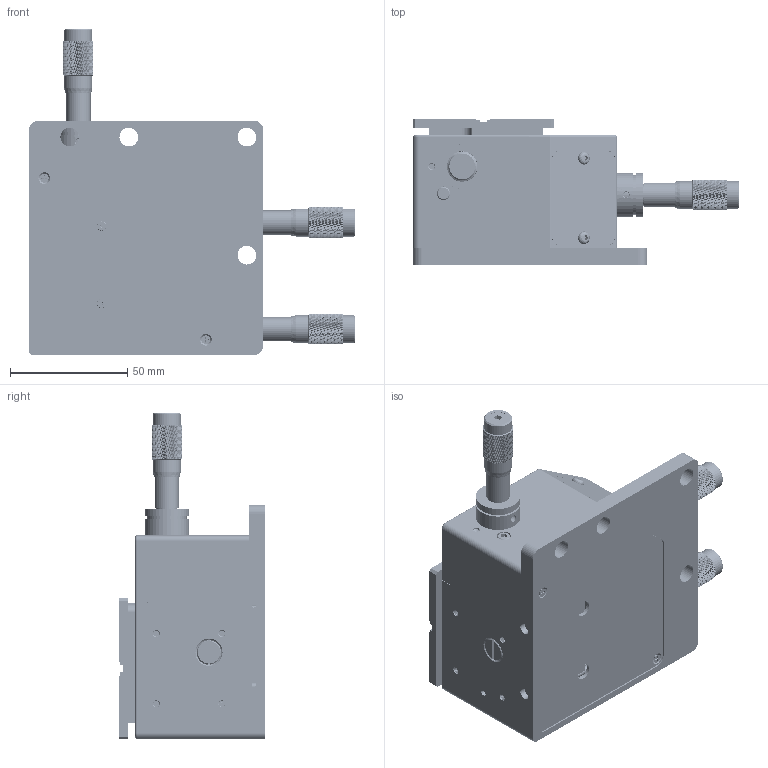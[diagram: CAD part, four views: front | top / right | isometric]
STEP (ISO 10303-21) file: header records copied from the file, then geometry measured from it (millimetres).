
FILE_DESCRIPTION((''),'2;1');
FILE_NAME('NANO_X3-M_ASM','2020-10-26T',('Administrator'),(''),'CREO PARAMETRIC BY PTC INC, 2015290','CREO PARAMETRIC BY PTC INC, 2015290','');
FILE_SCHEMA(('CONFIG_CONTROL_DESIGN'));
Products named in the file (63): NANO_X3-M_A1; NANO_X3-M_A2; AXLE_0_8X30; NANO_X3-M_A3; NANO_X3-M_FLEX_ASSY_65_ASM; NANO_X3-M_A4; AXLE_0_8_54; M4_0_8; NANO_X3-M_FLEX_ASSY_55_ASM; NANO_X3-M_FLEX_ASSY_55_2_ASM; NANO_X3-M_FLEX_ASSY_65_2_ASM; SPACER_4X5; M2_5X5_HM; M2_5X6_HM; NANO_X3-M_B1; NANO_X3-M_B2; NANO_X3-M_B3; NANO_X3-M_A5; NANO_X3-M_MOVING_Z_ASM; NANO_X3-M_A6; NANO_X3-M_B4; NANO_X3-M_B5; M3X5_PM; NANO_X3-M_A8; SPRING_10X16; NANO_X3-M_A7; NANO_X3-M_X_AXIS_ASM; M3X6_HM_2; SPRING_10X16_2; NANO_X3-M_A9; NANO_X3-M_Y_AXIS_ASM; NANO_X3-M_A11; NANO_X3-M_A10; NANO_X3-M_A10_ASM; NANO_X3-M_Z_LEVER_ASM; NANO_X3-M_A12; M4X8_HS; SPRING4_5X30; NANO_X3-M_A13; SPACER_6X1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
Assembly tree (134 placements, depth 4):
  NANO_X3-M_ASM
    NANO_X3-M_A1
    NANO_X3-M_FLEX_ASSY_65_ASM  x3
      NANO_X3-M_A2
      AXLE_0_8X30
      NANO_X3-M_A3
    NANO_X3-M_FLEX_ASSY_55_ASM
      NANO_X3-M_A4
      NANO_X3-M_A2
      AXLE_0_8_54
      M4_0_8
    NANO_X3-M_FLEX_ASSY_55_2_ASM
      NANO_X3-M_A4
      NANO_X3-M_A2  x2
      AXLE_0_8_54
    NANO_X3-M_FLEX_ASSY_65_2_ASM
      NANO_X3-M_A2
      AXLE_0_8X30  x2
      NANO_X3-M_A3
      M4_0_8
    NANO_X3-M_MOVING_Z_ASM
      SPACER_4X5
      M2_5X5_HM  x2
      M2_5X6_HM  x3
      NANO_X3-M_B1
      NANO_X3-M_B2  x2
      NANO_X3-M_B3
      NANO_X3-M_A5
    NANO_X3-M_X_AXIS_ASM
      NANO_X3-M_A6
      NANO_X3-M_B4  x2
      NANO_X3-M_B5
      M3X5_PM  x6
      NANO_X3-M_A8
      SPRING_10X16
      NANO_X3-M_A7
    NANO_X3-M_Y_AXIS_ASM
      M3X6_HM_2  x3
      SPRING_10X16_2
      NANO_X3-M_A8
      NANO_X3-M_B4
      NANO_X3-M_B5
      NANO_X3-M_A9
    NANO_X3-M_Z_LEVER_ASM
      NANO_X3-M_A11
      NANO_X3-M_B1
      NANO_X3-M_B3
      NANO_X3-M_A10_ASM
        SPACER_4X5
        NANO_X3-M_A10
    NANO_X3-M_A12
    M4X8_HS
    SPRING4_5X30
    NANO_X3-M_A13
    SPACER_6X1  x3
    NANO_X3-M_A14
    NANO_X3-M_A15
    M3X5_HM_3  x2
    SPRING_10X16_3
    SPRING_PLUG
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Bounding box: 139.15 x 62.5 x 139.15 mm (x, y, z)
Volume: 229290.7 mm3; surface area: 164564.7 mm2
Topology: 142 solids, 142 shells, 12510 faces, 34809 edges, 22655 vertices
Faces by surface type: bspline 5400, cylinder 5235, plane 1212, cone 578, torus 71, sphere 14
Entity records: 480734 total; most frequent: CARTESIAN_POINT 342877, ORIENTED_EDGE 35898, EDGE_CURVE 17949, DIRECTION 16180, VERTEX_POINT 11732, B_SPLINE_CURVE_WITH_KNOTS 11553, EDGE_LOOP 6775, FACE_OUTER_BOUND 6378
